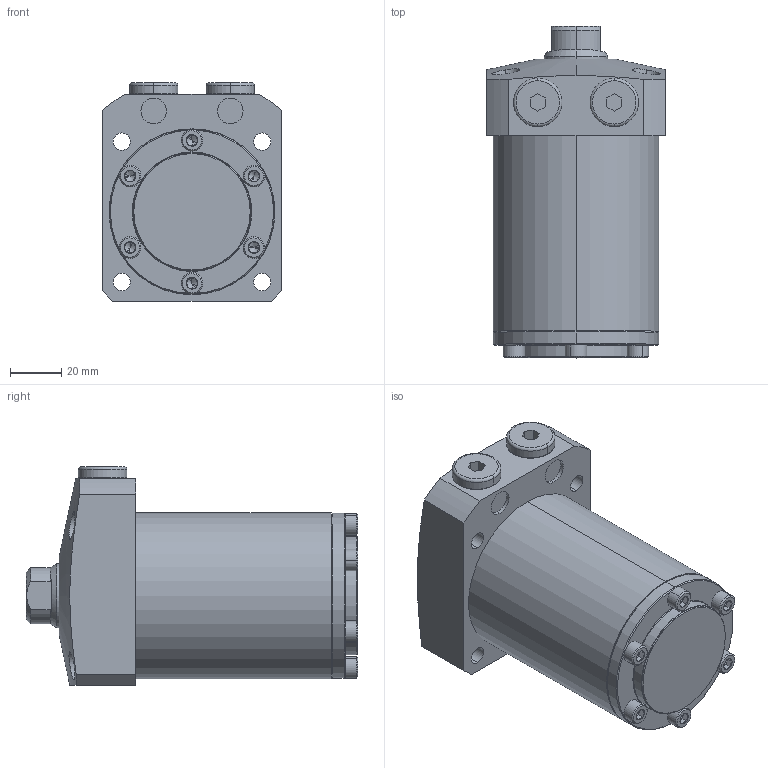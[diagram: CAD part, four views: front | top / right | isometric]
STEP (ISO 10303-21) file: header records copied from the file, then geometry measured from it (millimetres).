
FILE_DESCRIPTION (( 'STEP AP203' ), '1' );
FILE_NAME ('680650-CA-070.step', '2016-11-02T03:25:27', ( 'wxp' ), ( '' ), 'SwSTEP 2.0', 'SolidWorks 2011', '' );
FILE_SCHEMA (( 'CONFIG_CONTROL_DESIGN' ));
Length unit declared in the file: millimetre
Products named in the file (6): 680650-CA-070; 葩璃 68065-CA-15-5^680650-CA-070; 葩璃 68065-CA-15-4^680650-CA-070; 葩璃 68065-CA-15-3^680650-CA-070; 葩璃 68065-CA-70-2^680650-CA-070; 葩璃 68065-CA-70-1^680650-CA-070
Assembly tree (11 placements, depth 2):
  680650-CA-070
    葩璃 68065-CA-15-4^680650-CA-070  x6
    葩璃 68065-CA-70-1^680650-CA-070
    葩璃 68065-CA-15-5^680650-CA-070  x2
    葩璃 68065-CA-15-3^680650-CA-070
    葩璃 68065-CA-70-2^680650-CA-070
Bounding box: 70 x 130 x 85.5 mm (x, y, z)
Volume: 457648.4 mm3; surface area: 60935.1 mm2
Topology: 11 solids, 11 shells, 345 faces, 675 edges, 370 vertices
Faces by surface type: plane 140, cone 96, cylinder 93, torus 16
Entity records: 5712 total; most frequent: CARTESIAN_POINT 1221, DIRECTION 859, ORIENTED_EDGE 698, AXIS2_PLACEMENT_3D 360, EDGE_CURVE 349, VERTEX_POINT 213, EDGE_LOOP 202, CIRCLE 182
